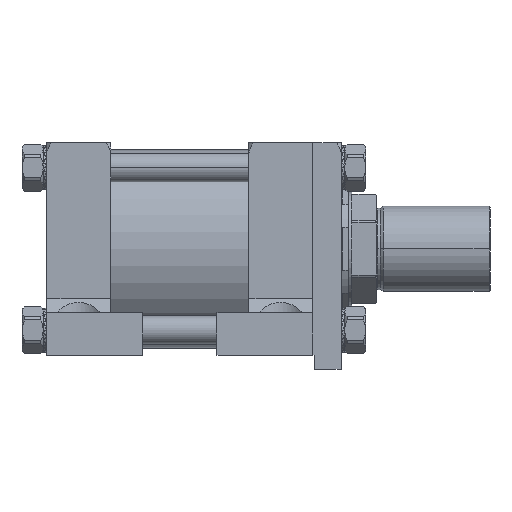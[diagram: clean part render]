
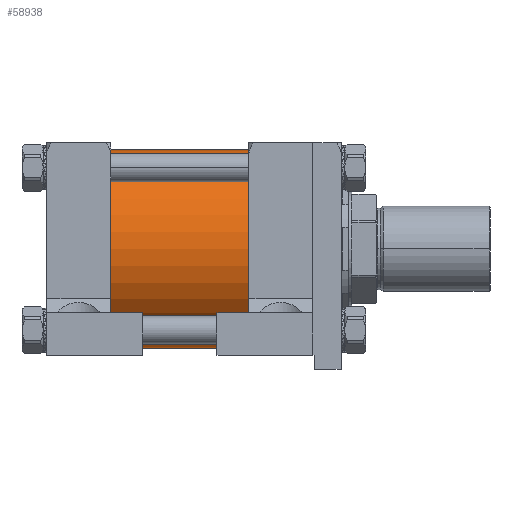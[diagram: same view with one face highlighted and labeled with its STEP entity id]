
A CAD part, front view. The second image highlights one B-rep face of the part: STEP entity #58938.
In plain terms, the highlighted cylindrical face has radius 88.9 mm (diameter 177.8 mm), a partial arc.
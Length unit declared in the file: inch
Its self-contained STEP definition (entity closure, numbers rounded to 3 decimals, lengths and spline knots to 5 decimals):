
#335 = CARTESIAN_POINT ( 'NONE',  ( -4.25, 0., 0. ) ) ;
#5493 = EDGE_CURVE ( 'NONE', #37696, #56404, #21990, .T. ) ;
#7154 = AXIS2_PLACEMENT_3D ( 'NONE', #40550, #7338, #8269 ) ;
#7338 = DIRECTION ( 'NONE',  ( 1., 0., 0. ) ) ;
#8269 = DIRECTION ( 'NONE',  ( 0., 0., -1. ) ) ;
#9087 = EDGE_CURVE ( 'NONE', #40556, #37696, #42225, .T. ) ;
#12120 = CARTESIAN_POINT ( 'NONE',  ( -9.625, 0., -3.5 ) ) ;
#14379 = DIRECTION ( 'NONE',  ( 1., 0., 0. ) ) ;
#16695 = EDGE_CURVE ( 'NONE', #40556, #55600, #20989, .T. ) ;
#17769 = VECTOR ( 'NONE', #18409, 39.37008 ) ;
#18409 = DIRECTION ( 'NONE',  ( 1., 0., 0. ) ) ;
#20989 = CIRCLE ( 'NONE', #42978, 3.5 ) ;
#21990 = CIRCLE ( 'NONE', #30044, 3.5 ) ;
#22165 = EDGE_CURVE ( 'NONE', #55600, #56404, #45323, .T. ) ;
#22534 = ORIENTED_EDGE ( 'NONE', *, *, #5493, .F. ) ;
#23342 = ORIENTED_EDGE ( 'NONE', *, *, #22165, .T. ) ;
#24601 = ORIENTED_EDGE ( 'NONE', *, *, #9087, .F. ) ;
#24684 = CARTESIAN_POINT ( 'NONE',  ( -4.25, 0., 3.5 ) ) ;
#27574 = VECTOR ( 'NONE', #50010, 39.37008 ) ;
#30044 = AXIS2_PLACEMENT_3D ( 'NONE', #335, #14379, #52592 ) ;
#30930 = CARTESIAN_POINT ( 'NONE',  ( -9.625, 0., -3.5 ) ) ;
#36650 = DIRECTION ( 'NONE',  ( 0., 1., 0. ) ) ;
#37282 = DIRECTION ( 'NONE',  ( 1., 0., 0. ) ) ;
#37696 = VERTEX_POINT ( 'NONE', #24684 ) ;
#38499 = ORIENTED_EDGE ( 'NONE', *, *, #16695, .T. ) ;
#40550 = CARTESIAN_POINT ( 'NONE',  ( -9.625, 0., 0. ) ) ;
#40556 = VERTEX_POINT ( 'NONE', #52053 ) ;
#42225 = LINE ( 'NONE', #61325, #17769 ) ;
#42242 = CARTESIAN_POINT ( 'NONE',  ( -9.625, 0., 0. ) ) ;
#42978 = AXIS2_PLACEMENT_3D ( 'NONE', #42242, #37282, #36650 ) ;
#45323 = LINE ( 'NONE', #30930, #27574 ) ;
#49907 = CARTESIAN_POINT ( 'NONE',  ( -4.25, 0., -3.5 ) ) ;
#50010 = DIRECTION ( 'NONE',  ( 1., 0., 0. ) ) ;
#52053 = CARTESIAN_POINT ( 'NONE',  ( -9.625, 0., 3.5 ) ) ;
#52592 = DIRECTION ( 'NONE',  ( 0., 1., 0. ) ) ;
#54060 = FACE_OUTER_BOUND ( 'NONE', #61760, .T. ) ;
#55600 = VERTEX_POINT ( 'NONE', #12120 ) ;
#56404 = VERTEX_POINT ( 'NONE', #49907 ) ;
#58142 = CYLINDRICAL_SURFACE ( 'NONE', #7154, 3.5 ) ;
#58938 = ADVANCED_FACE ( 'NONE', ( #54060 ), #58142, .T. ) ;
#61325 = CARTESIAN_POINT ( 'NONE',  ( -9.625, 0., 3.5 ) ) ;
#61760 = EDGE_LOOP ( 'NONE', ( #24601, #38499, #23342, #22534 ) ) ;
